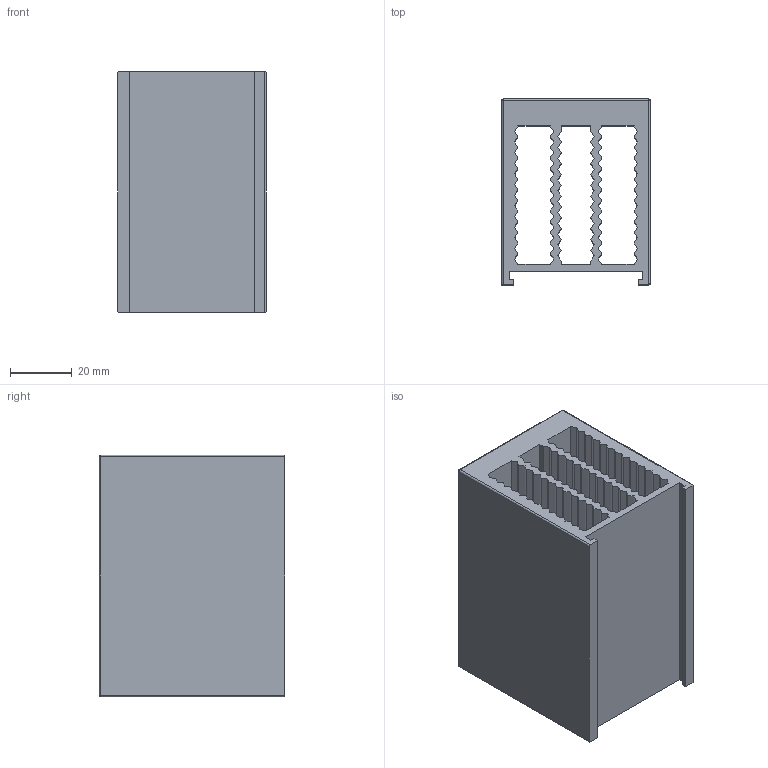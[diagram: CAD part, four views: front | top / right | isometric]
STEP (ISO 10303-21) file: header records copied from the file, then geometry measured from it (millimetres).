
FILE_DESCRIPTION (( 'STEP AP214' ), '1' );
FILE_NAME ('HP-03.STEP', '2026-04-30T06:18:43', ( '' ), ( '' ), 'SwSTEP 2.0', 'SolidWorks 2022', '' );
FILE_SCHEMA (( 'AUTOMOTIVE_DESIGN' ));
Length unit declared in the file: millimetre
Products named in the file (1): HP-03
Bounding box: 48 x 60 x 78 mm (x, y, z)
Volume: 92707.7 mm3; surface area: 50037.6 mm2
Topology: 1 solids, 1 shells, 269 faces, 777 edges, 506 vertices
Faces by surface type: plane 202, cylinder 53, bspline 6, cone 4, sphere 4
Entity records: 10793 total; most frequent: CARTESIAN_POINT 3961, ORIENTED_EDGE 1546, DIRECTION 1241, EDGE_CURVE 773, VECTOR 661, LINE 661, VERTEX_POINT 506, AXIS2_PLACEMENT_3D 290
